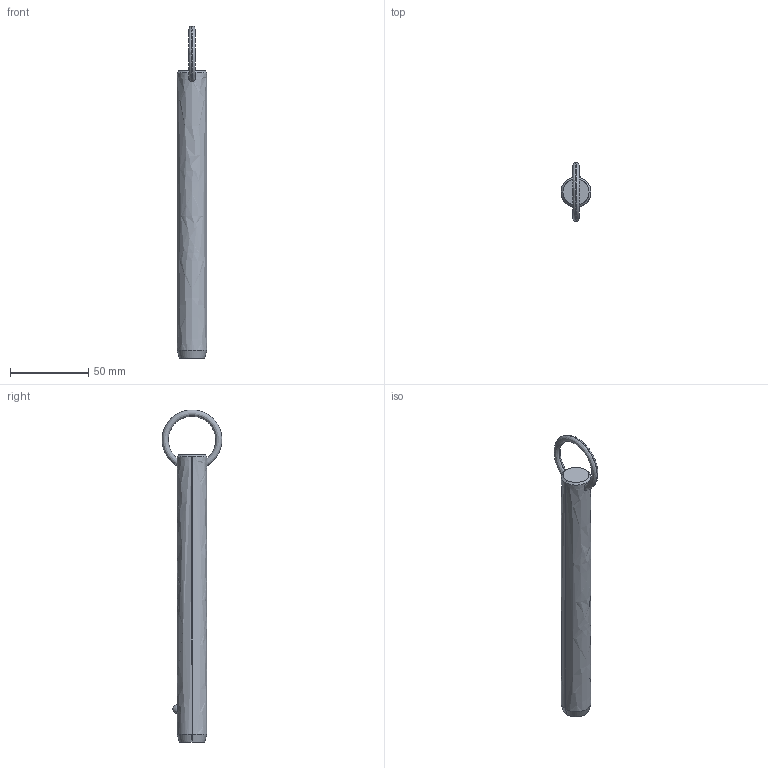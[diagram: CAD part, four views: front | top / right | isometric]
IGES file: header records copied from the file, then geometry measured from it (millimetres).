
Start section: SolidWorks IGES file using analytic representation for surfaces
Global section: file name: C:\Users\liam_\OneDrive\Documents\WORK\Work for WixRoyd\Job Files\J-00019 - Matt Davis CAD Checking\04. CAD Drawings\automotion20190605\P1250.2_v2\P1250.2_v2_20190729_IGES\P1250.075-590.igs; native system: SolidWorks 2017; preprocessor: SolidWorks 2017; author: liam_; date: 190729.235835; units: millimetre
Bounding box: 19 x 38.09 x 211.69 mm (x, y, z)
Surface area: 12462.1 mm2 (no closed solid volume)
Topology: 0 solids, 0 shells, 12 faces, 294 edges, 292 vertices
Faces by surface type: revolution 8, bspline 4
